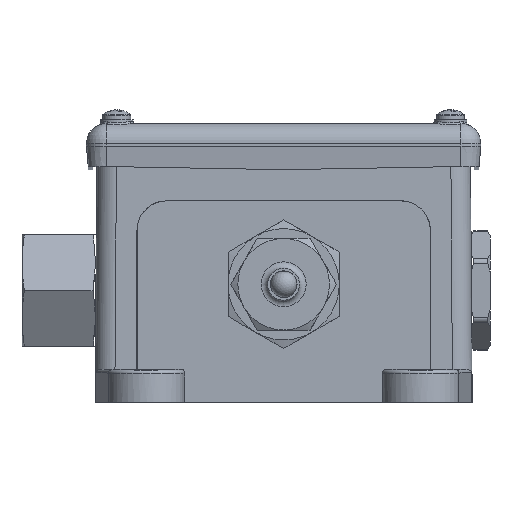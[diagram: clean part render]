
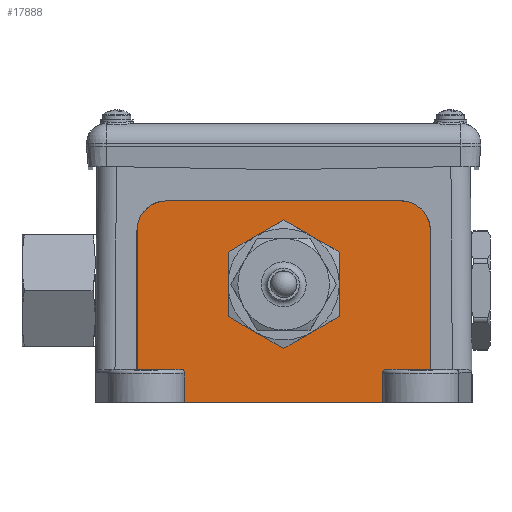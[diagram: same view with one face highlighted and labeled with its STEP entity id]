
A CAD part, front view. The second image highlights one B-rep face of the part: STEP entity #17888.
In plain terms, the highlighted planar face has unit normal (0, -1, 0).
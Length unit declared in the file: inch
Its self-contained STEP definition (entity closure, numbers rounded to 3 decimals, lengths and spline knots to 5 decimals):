
#75 = AXIS2_PLACEMENT_3D ( 'NONE', #16500, #1520, #8177 ) ;
#120 = EDGE_LOOP ( 'NONE', ( #17409 ) ) ;
#305 = DIRECTION ( 'NONE',  ( 0., 0., 1. ) ) ;
#812 = EDGE_LOOP ( 'NONE', ( #3537, #15077, #12237, #15735, #13994, #21155, #19279, #20240, #10769, #15860, #2367, #21535 ) ) ;
#1231 = CIRCLE ( 'NONE', #9974, 0.281 ) ;
#1357 = CARTESIAN_POINT ( 'NONE',  ( -1.4, -1.48, 1.64 ) ) ;
#1380 = LINE ( 'NONE', #4748, #3880 ) ;
#1520 = DIRECTION ( 'NONE',  ( 0., 1., 0. ) ) ;
#1904 = LINE ( 'NONE', #5351, #10955 ) ;
#1969 = VERTEX_POINT ( 'NONE', #9238 ) ;
#2020 = VECTOR ( 'NONE', #5397, 39.37008 ) ;
#2286 = DIRECTION ( 'NONE',  ( 0., 1., 0. ) ) ;
#2367 = ORIENTED_EDGE ( 'NONE', *, *, #18245, .F. ) ;
#2438 = DIRECTION ( 'NONE',  ( 0., -1., 0. ) ) ;
#2474 = DIRECTION ( 'NONE',  ( 0., -1., 0. ) ) ;
#2689 = DIRECTION ( 'NONE',  ( 0., 0., -1. ) ) ;
#2729 = CARTESIAN_POINT ( 'NONE',  ( 1.119, -1.48, 1.921 ) ) ;
#2743 = CARTESIAN_POINT ( 'NONE',  ( 1.119, -1.48, 1.64 ) ) ;
#2785 = EDGE_CURVE ( 'NONE', #4320, #10654, #6351, .T. ) ;
#2868 = VERTEX_POINT ( 'NONE', #6997 ) ;
#3067 = VECTOR ( 'NONE', #13892, 39.37008 ) ;
#3393 = DIRECTION ( 'NONE',  ( 1., 0., 0. ) ) ;
#3537 = ORIENTED_EDGE ( 'NONE', *, *, #12518, .F. ) ;
#3556 = CIRCLE ( 'NONE', #75, 0.51 ) ;
#3880 = VECTOR ( 'NONE', #8032, 39.37008 ) ;
#3894 = CARTESIAN_POINT ( 'NONE',  ( 1.4, -1.48, 0. ) ) ;
#3999 = CARTESIAN_POINT ( 'NONE',  ( -0.94497, -1.48, 0.28125 ) ) ;
#4301 = CARTESIAN_POINT ( 'NONE',  ( -1.119, -1.48, 1.64 ) ) ;
#4320 = VERTEX_POINT ( 'NONE', #8234 ) ;
#4521 = EDGE_CURVE ( 'NONE', #20297, #4320, #1904, .T. ) ;
#4748 = CARTESIAN_POINT ( 'NONE',  ( 0.94497, -1.48, 1.64 ) ) ;
#4767 = VECTOR ( 'NONE', #5506, 39.37008 ) ;
#5088 = VERTEX_POINT ( 'NONE', #13543 ) ;
#5351 = CARTESIAN_POINT ( 'NONE',  ( 1.119, -1.48, 1.921 ) ) ;
#5397 = DIRECTION ( 'NONE',  ( -1., 0., 0. ) ) ;
#5506 = DIRECTION ( 'NONE',  ( 0., 0., 1. ) ) ;
#5742 = CARTESIAN_POINT ( 'NONE',  ( 1.4, -1.48, 0. ) ) ;
#6351 = CIRCLE ( 'NONE', #18978, 0.281 ) ;
#6997 = CARTESIAN_POINT ( 'NONE',  ( 0.97622, -1.48, 0.3125 ) ) ;
#7612 = CARTESIAN_POINT ( 'NONE',  ( 0.95791, -1.48, 0.3125 ) ) ;
#7947 = CARTESIAN_POINT ( 'NONE',  ( 0.94497, -1.48, 0.28125 ) ) ;
#8032 = DIRECTION ( 'NONE',  ( 0., 0., -1. ) ) ;
#8177 = DIRECTION ( 'NONE',  ( 0., 0., 1. ) ) ;
#8206 =( BOUNDED_CURVE ( )  B_SPLINE_CURVE ( 3, ( #7947, #18123, #7612, #13115 ),
 .UNSPECIFIED., .F., .F. ) 
 B_SPLINE_CURVE_WITH_KNOTS ( ( 4, 4 ),
 ( 4.71239, 6.28319 ),
 .UNSPECIFIED. ) 
 CURVE ( )  GEOMETRIC_REPRESENTATION_ITEM ( )  RATIONAL_B_SPLINE_CURVE ( ( 1., 0.805, 0.805, 1. ) ) 
 REPRESENTATION_ITEM ( '' )  );
#8234 = CARTESIAN_POINT ( 'NONE',  ( -1.119, -1.48, 1.921 ) ) ;
#8268 = VERTEX_POINT ( 'NONE', #16158 ) ;
#8586 = VECTOR ( 'NONE', #19669, 39.37008 ) ;
#8772 = EDGE_CURVE ( 'NONE', #1969, #20297, #1231, .T. ) ;
#8939 = LINE ( 'NONE', #3894, #11241 ) ;
#9238 = CARTESIAN_POINT ( 'NONE',  ( 1.4, -1.48, 1.64 ) ) ;
#9427 = DIRECTION ( 'NONE',  ( 0., 0., 1. ) ) ;
#9974 = AXIS2_PLACEMENT_3D ( 'NONE', #2743, #2438, #9427 ) ;
#10160 = EDGE_CURVE ( 'NONE', #10654, #15887, #14402, .T. ) ;
#10281 = CARTESIAN_POINT ( 'NONE',  ( 1.119, -1.48, 0.3125 ) ) ;
#10573 = DIRECTION ( 'NONE',  ( 1., 0., 0. ) ) ;
#10581 = FACE_OUTER_BOUND ( 'NONE', #812, .T. ) ;
#10654 = VERTEX_POINT ( 'NONE', #1357 ) ;
#10680 = CARTESIAN_POINT ( 'NONE',  ( -0.97622, -1.48, 0.3125 ) ) ;
#10769 = ORIENTED_EDGE ( 'NONE', *, *, #12553, .F. ) ;
#10955 = VECTOR ( 'NONE', #20079, 39.37008 ) ;
#11241 = VECTOR ( 'NONE', #10573, 39.37008 ) ;
#12002 = LINE ( 'NONE', #15498, #2020 ) ;
#12221 = CARTESIAN_POINT ( 'NONE',  ( -0.95791, -1.48, 0.3125 ) ) ;
#12237 = ORIENTED_EDGE ( 'NONE', *, *, #8772, .T. ) ;
#12518 = EDGE_CURVE ( 'NONE', #18987, #2868, #12002, .T. ) ;
#12553 = EDGE_CURVE ( 'NONE', #20008, #18238, #17021, .T. ) ;
#12655 = CARTESIAN_POINT ( 'NONE',  ( -1.4, -1.48, 0. ) ) ;
#12956 = CARTESIAN_POINT ( 'NONE',  ( -1.4, -1.48, 0.3125 ) ) ;
#13115 = CARTESIAN_POINT ( 'NONE',  ( 0.97622, -1.48, 0.3125 ) ) ;
#13179 = VERTEX_POINT ( 'NONE', #14140 ) ;
#13543 = CARTESIAN_POINT ( 'NONE',  ( 0., -1.48, 1.635 ) ) ;
#13892 = DIRECTION ( 'NONE',  ( 0., 0., 1. ) ) ;
#13994 = ORIENTED_EDGE ( 'NONE', *, *, #2785, .T. ) ;
#14140 = CARTESIAN_POINT ( 'NONE',  ( -0.97622, -1.48, 0.3125 ) ) ;
#14402 = LINE ( 'NONE', #12655, #8586 ) ;
#14804 = CARTESIAN_POINT ( 'NONE',  ( -0.94497, -1.48, 0. ) ) ;
#14949 = EDGE_CURVE ( 'NONE', #15887, #13179, #15319, .T. ) ;
#15007 = VECTOR ( 'NONE', #3393, 39.37008 ) ;
#15077 = ORIENTED_EDGE ( 'NONE', *, *, #15137, .T. ) ;
#15137 = EDGE_CURVE ( 'NONE', #18987, #1969, #17047, .T. ) ;
#15200 =( BOUNDED_CURVE ( )  B_SPLINE_CURVE ( 3, ( #10680, #12221, #15612, #3999 ),
 .UNSPECIFIED., .F., .F. ) 
 B_SPLINE_CURVE_WITH_KNOTS ( ( 4, 4 ),
 ( 3.14159, 4.71239 ),
 .UNSPECIFIED. ) 
 CURVE ( )  GEOMETRIC_REPRESENTATION_ITEM ( )  RATIONAL_B_SPLINE_CURVE ( ( 1., 0.805, 0.805, 1. ) ) 
 REPRESENTATION_ITEM ( '' )  );
#15303 = CARTESIAN_POINT ( 'NONE',  ( 1.119, -1.48, 1.64 ) ) ;
#15319 = LINE ( 'NONE', #10281, #15007 ) ;
#15404 = PLANE ( 'NONE',  #19647 ) ;
#15498 = CARTESIAN_POINT ( 'NONE',  ( 1.119, -1.48, 0.3125 ) ) ;
#15612 = CARTESIAN_POINT ( 'NONE',  ( -0.94497, -1.48, 0.29956 ) ) ;
#15735 = ORIENTED_EDGE ( 'NONE', *, *, #4521, .T. ) ;
#15860 = ORIENTED_EDGE ( 'NONE', *, *, #16524, .T. ) ;
#15887 = VERTEX_POINT ( 'NONE', #12956 ) ;
#16158 = CARTESIAN_POINT ( 'NONE',  ( 0.94497, -1.48, 0. ) ) ;
#16254 = CARTESIAN_POINT ( 'NONE',  ( 1.4, -1.48, 0.3125 ) ) ;
#16354 = CARTESIAN_POINT ( 'NONE',  ( -0.94497, -1.48, 0.28125 ) ) ;
#16500 = CARTESIAN_POINT ( 'NONE',  ( 0., -1.48, 1.125 ) ) ;
#16524 = EDGE_CURVE ( 'NONE', #20008, #8268, #8939, .T. ) ;
#17021 = LINE ( 'NONE', #20223, #4767 ) ;
#17047 = LINE ( 'NONE', #5742, #3067 ) ;
#17409 = ORIENTED_EDGE ( 'NONE', *, *, #18798, .T. ) ;
#17888 = ADVANCED_FACE ( 'NONE', ( #18574, #10581 ), #15404, .F. ) ;
#18123 = CARTESIAN_POINT ( 'NONE',  ( 0.94497, -1.48, 0.29956 ) ) ;
#18238 = VERTEX_POINT ( 'NONE', #16354 ) ;
#18245 = EDGE_CURVE ( 'NONE', #18419, #8268, #1380, .T. ) ;
#18419 = VERTEX_POINT ( 'NONE', #19734 ) ;
#18574 = FACE_BOUND ( 'NONE', #120, .T. ) ;
#18798 = EDGE_CURVE ( 'NONE', #5088, #5088, #3556, .T. ) ;
#18978 = AXIS2_PLACEMENT_3D ( 'NONE', #4301, #2474, #2689 ) ;
#18987 = VERTEX_POINT ( 'NONE', #16254 ) ;
#19279 = ORIENTED_EDGE ( 'NONE', *, *, #14949, .T. ) ;
#19647 = AXIS2_PLACEMENT_3D ( 'NONE', #15303, #2286, #305 ) ;
#19669 = DIRECTION ( 'NONE',  ( 0., 0., -1. ) ) ;
#19734 = CARTESIAN_POINT ( 'NONE',  ( 0.94497, -1.48, 0.28125 ) ) ;
#20008 = VERTEX_POINT ( 'NONE', #14804 ) ;
#20079 = DIRECTION ( 'NONE',  ( -1., 0., 0. ) ) ;
#20223 = CARTESIAN_POINT ( 'NONE',  ( -0.94497, -1.48, 1.64 ) ) ;
#20240 = ORIENTED_EDGE ( 'NONE', *, *, #20940, .T. ) ;
#20297 = VERTEX_POINT ( 'NONE', #2729 ) ;
#20940 = EDGE_CURVE ( 'NONE', #13179, #18238, #15200, .T. ) ;
#21155 = ORIENTED_EDGE ( 'NONE', *, *, #10160, .T. ) ;
#21535 = ORIENTED_EDGE ( 'NONE', *, *, #21663, .T. ) ;
#21663 = EDGE_CURVE ( 'NONE', #18419, #2868, #8206, .T. ) ;
